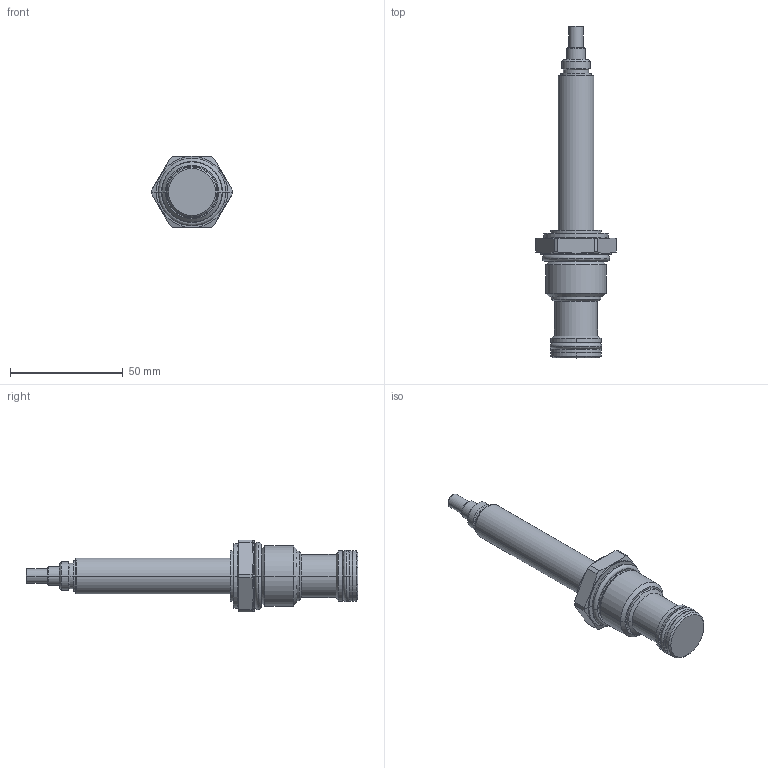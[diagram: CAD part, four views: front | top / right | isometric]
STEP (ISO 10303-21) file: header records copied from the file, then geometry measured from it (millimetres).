
FILE_DESCRIPTION((''),'2;1');
FILE_NAME('5003986_SW0001','2009-03-03T',('JCS'),(''),'PRO/ENGINEER BY PARAMETRIC TECHNOLOGY CORPORATION, 2008010','PRO/ENGINEER BY PARAMETRIC TECHNOLOGY CORPORATION, 2008010','');
FILE_SCHEMA(('CONFIG_CONTROL_DESIGN'));
Length unit declared in the file: inch
Products named in the file (1): 5003986_SW0001
Bounding box: 35.69 x 146.99 x 31.75 mm (x, y, z)
Volume: 42268.2 mm3; surface area: 12204.6 mm2
Topology: 4 solids, 4 shells, 130 faces, 284 edges, 166 vertices
Faces by surface type: cone 42, cylinder 42, plane 18, revolution 16, torus 12
Entity records: 3992 total; most frequent: CARTESIAN_POINT 1046, DIRECTION 654, ORIENTED_EDGE 568, EDGE_CURVE 284, AXIS2_PLACEMENT_3D 274, VERTEX_POINT 166, CIRCLE 160, EDGE_LOOP 140
